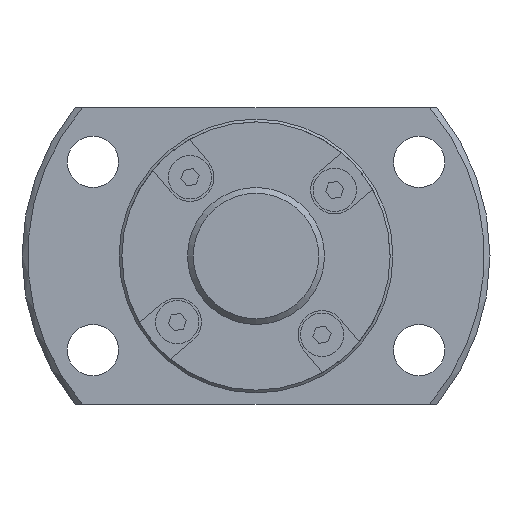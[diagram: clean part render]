
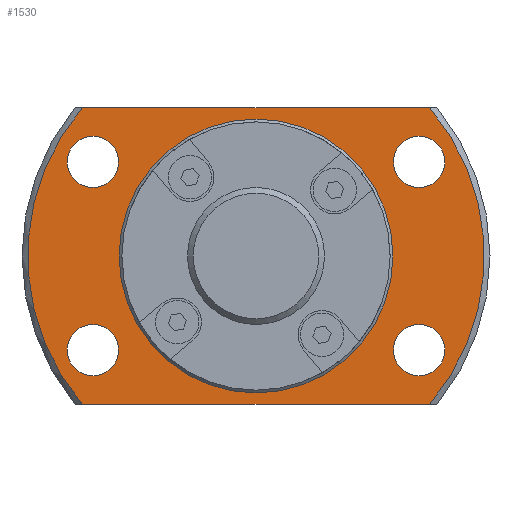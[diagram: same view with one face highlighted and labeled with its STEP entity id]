
A CAD part, left-side view. The second image highlights one B-rep face of the part: STEP entity #1530.
In plain terms, the highlighted planar face has unit normal (-1, 0, 0).
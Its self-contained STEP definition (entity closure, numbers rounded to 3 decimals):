
#124=LINE('',#2507,#244);
#125=LINE('',#2511,#245);
#244=VECTOR('',#2017,1000.);
#245=VECTOR('',#2020,1000.);
#450=ORIENTED_EDGE('',*,*,#812,.T.);
#451=ORIENTED_EDGE('',*,*,#813,.T.);
#452=ORIENTED_EDGE('',*,*,#814,.T.);
#453=ORIENTED_EDGE('',*,*,#815,.T.);
#454=ORIENTED_EDGE('',*,*,#768,.F.);
#455=ORIENTED_EDGE('',*,*,#816,.T.);
#456=ORIENTED_EDGE('',*,*,#817,.F.);
#457=ORIENTED_EDGE('',*,*,#818,.T.);
#458=ORIENTED_EDGE('',*,*,#811,.T.);
#768=EDGE_CURVE('',#963,#964,#1081,.T.);
#811=EDGE_CURVE('',#1001,#1001,#1103,.T.);
#812=EDGE_CURVE('',#1002,#1002,#1104,.T.);
#813=EDGE_CURVE('',#1003,#1003,#1105,.T.);
#814=EDGE_CURVE('',#1004,#1004,#1106,.T.);
#815=EDGE_CURVE('',#1005,#1005,#1107,.T.);
#816=EDGE_CURVE('',#963,#1006,#124,.T.);
#817=EDGE_CURVE('',#1007,#1006,#1108,.T.);
#818=EDGE_CURVE('',#1007,#964,#125,.T.);
#963=VERTEX_POINT('',#2397);
#964=VERTEX_POINT('',#2399);
#1001=VERTEX_POINT('',#2497);
#1002=VERTEX_POINT('',#2500);
#1003=VERTEX_POINT('',#2502);
#1004=VERTEX_POINT('',#2504);
#1005=VERTEX_POINT('',#2506);
#1006=VERTEX_POINT('',#2508);
#1007=VERTEX_POINT('',#2510);
#1081=CIRCLE('',#1670,20.);
#1103=CIRCLE('',#1701,11.75);
#1104=CIRCLE('',#1703,2.25);
#1105=CIRCLE('',#1704,2.25);
#1106=CIRCLE('',#1705,2.25);
#1107=CIRCLE('',#1706,2.25);
#1108=CIRCLE('',#1707,20.);
#1188=EDGE_LOOP('',(#450));
#1189=EDGE_LOOP('',(#451));
#1190=EDGE_LOOP('',(#452));
#1191=EDGE_LOOP('',(#453));
#1192=EDGE_LOOP('',(#454,#455,#456,#457));
#1193=EDGE_LOOP('',(#458));
#1340=FACE_BOUND('',#1188,.T.);
#1341=FACE_BOUND('',#1189,.T.);
#1342=FACE_BOUND('',#1190,.T.);
#1343=FACE_BOUND('',#1191,.T.);
#1344=FACE_BOUND('',#1192,.T.);
#1345=FACE_BOUND('',#1193,.T.);
#1450=PLANE('',#1702);
#1530=ADVANCED_FACE('',(#1340,#1341,#1342,#1343,#1344,#1345),#1450,.F.);
#1670=AXIS2_PLACEMENT_3D('',#2398,#1925,#1926);
#1701=AXIS2_PLACEMENT_3D('',#2496,#2005,#2006);
#1702=AXIS2_PLACEMENT_3D('',#2498,#2007,#2008);
#1703=AXIS2_PLACEMENT_3D('',#2499,#2009,#2010);
#1704=AXIS2_PLACEMENT_3D('',#2501,#2011,#2012);
#1705=AXIS2_PLACEMENT_3D('',#2503,#2013,#2014);
#1706=AXIS2_PLACEMENT_3D('',#2505,#2015,#2016);
#1707=AXIS2_PLACEMENT_3D('',#2509,#2018,#2019);
#1925=DIRECTION('',(1.,0.,0.));
#1926=DIRECTION('',(0.,0.,-1.));
#2005=DIRECTION('',(1.,0.,0.));
#2006=DIRECTION('',(0.,0.,-1.));
#2007=DIRECTION('',(1.,0.,0.));
#2008=DIRECTION('',(0.,0.,-1.));
#2009=DIRECTION('',(1.,0.,0.));
#2010=DIRECTION('',(0.,0.,-1.));
#2011=DIRECTION('',(1.,0.,0.));
#2012=DIRECTION('',(0.,0.,-1.));
#2013=DIRECTION('',(1.,0.,0.));
#2014=DIRECTION('',(0.,0.,-1.));
#2015=DIRECTION('',(1.,0.,0.));
#2016=DIRECTION('',(0.,0.,-1.));
#2017=DIRECTION('',(0.,-1.,0.));
#2018=DIRECTION('',(1.,0.,0.));
#2019=DIRECTION('',(0.,0.,-1.));
#2020=DIRECTION('',(0.,1.,0.));
#2397=CARTESIAN_POINT('',(14.5,15.199,-13.));
#2398=CARTESIAN_POINT('',(14.5,0.,0.));
#2399=CARTESIAN_POINT('',(14.5,15.199,13.));
#2496=CARTESIAN_POINT('',(14.5,0.,0.));
#2497=CARTESIAN_POINT('',(14.5,0.,-11.75));
#2498=CARTESIAN_POINT('',(14.5,11.75,0.));
#2499=CARTESIAN_POINT('',(14.5,-14.289,-8.25));
#2500=CARTESIAN_POINT('',(14.5,-14.289,-10.5));
#2501=CARTESIAN_POINT('',(14.5,-14.289,8.25));
#2502=CARTESIAN_POINT('',(14.5,-14.289,6.));
#2503=CARTESIAN_POINT('',(14.5,14.289,-8.25));
#2504=CARTESIAN_POINT('',(14.5,14.289,-10.5));
#2505=CARTESIAN_POINT('',(14.5,14.289,8.25));
#2506=CARTESIAN_POINT('',(14.5,14.289,6.));
#2507=CARTESIAN_POINT('',(14.5,11.75,-13.));
#2508=CARTESIAN_POINT('',(14.5,-15.199,-13.));
#2509=CARTESIAN_POINT('',(14.5,0.,0.));
#2510=CARTESIAN_POINT('',(14.5,-15.199,13.));
#2511=CARTESIAN_POINT('',(14.5,11.75,13.));
